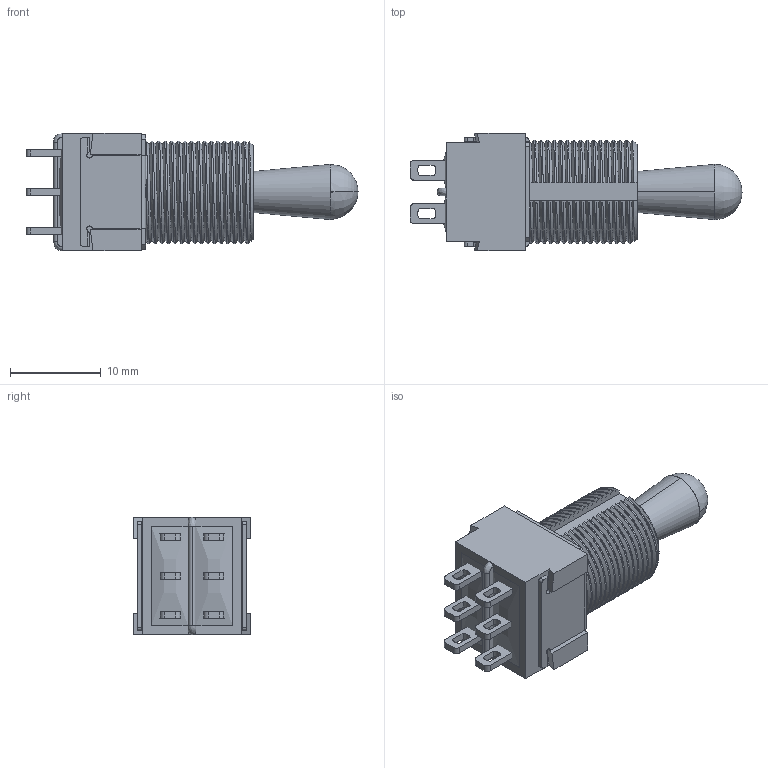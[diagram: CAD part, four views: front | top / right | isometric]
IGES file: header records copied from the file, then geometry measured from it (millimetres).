
Start section: SolidWorks IGES file using analytic representation for surfaces
Bounding box: 36.65 x 13 x 13 mm (x, y, z)
Surface area: 4320.2 mm2 (no closed solid volume)
Topology: 0 solids, 0 shells, 656 faces, 5901 edges, 5881 vertices
Faces by surface type: bspline 444, revolution 212
